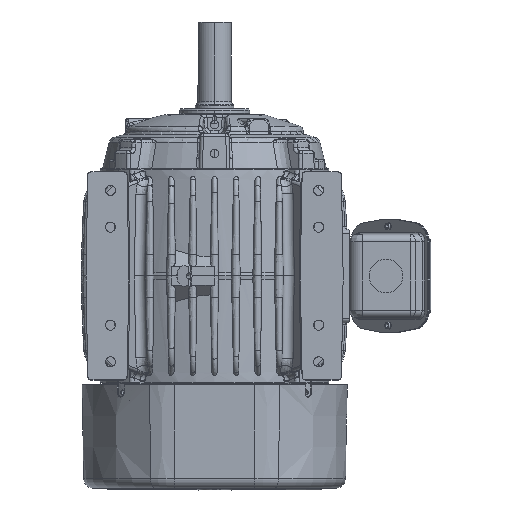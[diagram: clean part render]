
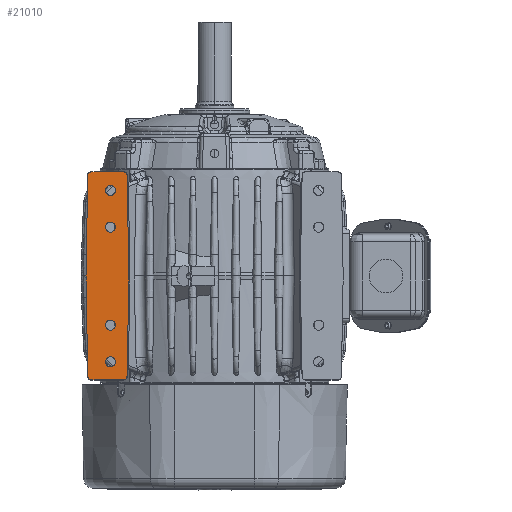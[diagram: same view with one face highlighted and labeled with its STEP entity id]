
A CAD part, front view. The second image highlights one B-rep face of the part: STEP entity #21010.
In plain terms, the highlighted planar face has unit normal (0, -1, 0).
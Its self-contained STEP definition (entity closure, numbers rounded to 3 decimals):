
#1=DIRECTION('',(0.017,0.,1.));
#2=VECTOR('',#1,2.39);
#3=CARTESIAN_POINT('',(3.5,-5.233,0.));
#4=LINE('',#3,#2);
#13=CARTESIAN_POINT('',(3.542,-5.233,2.389));
#14=CARTESIAN_POINT('',(3.545,-5.233,2.584));
#15=CARTESIAN_POINT('',(3.552,-5.233,2.973));
#16=CARTESIAN_POINT('',(3.563,-5.232,3.551));
#17=CARTESIAN_POINT('',(3.571,-5.233,3.933));
#18=CARTESIAN_POINT('',(3.576,-5.233,4.123));
#20=DIRECTION('',(1.,0.,0.));
#21=VECTOR('',#20,1.346);
#22=CARTESIAN_POINT('',(3.702,-5.233,4.246));
#23=LINE('',#22,#21);
#24=CARTESIAN_POINT('',(5.208,-5.233,2.389));
#25=CARTESIAN_POINT('',(5.198,-5.233,2.967));
#26=CARTESIAN_POINT('',(5.187,-5.233,3.545));
#27=CARTESIAN_POINT('',(5.174,-5.233,4.123));
#29=CARTESIAN_POINT('',(5.208,-5.233,-2.389));
#30=CARTESIAN_POINT('',(5.198,-5.233,-2.967));
#31=CARTESIAN_POINT('',(5.187,-5.233,-3.545));
#32=CARTESIAN_POINT('',(5.174,-5.233,-4.123));
#34=DIRECTION('',(-1.,0.,0.));
#35=VECTOR('',#34,1.346);
#36=CARTESIAN_POINT('',(5.048,-5.233,-4.246));
#37=LINE('',#36,#35);
#38=CARTESIAN_POINT('',(3.542,-5.233,-2.389));
#39=CARTESIAN_POINT('',(3.545,-5.233,-2.584));
#40=CARTESIAN_POINT('',(3.552,-5.233,-2.973));
#41=CARTESIAN_POINT('',(3.563,-5.232,-3.551));
#42=CARTESIAN_POINT('',(3.571,-5.233,-3.933));
#43=CARTESIAN_POINT('',(3.576,-5.233,-4.123));
#87=CARTESIAN_POINT('',(4.25,-5.233,3.505));
#88=DIRECTION('',(0.,-1.,0.));
#89=DIRECTION('',(-1.,0.,0.));
#90=AXIS2_PLACEMENT_3D('',#87,#88,#89);
#92=CARTESIAN_POINT('',(4.25,-5.233,3.505));
#93=DIRECTION('',(0.,-1.,0.));
#94=DIRECTION('',(1.,0.,0.));
#95=AXIS2_PLACEMENT_3D('',#92,#93,#94);
#107=CARTESIAN_POINT('',(4.25,-5.233,-3.495));
#108=DIRECTION('',(0.,-1.,0.));
#109=DIRECTION('',(-1.,0.,0.));
#110=AXIS2_PLACEMENT_3D('',#107,#108,#109);
#112=CARTESIAN_POINT('',(4.25,-5.233,-3.495));
#113=DIRECTION('',(0.,-1.,0.));
#114=DIRECTION('',(1.,0.,0.));
#115=AXIS2_PLACEMENT_3D('',#112,#113,#114);
#127=CARTESIAN_POINT('',(4.25,-5.233,2.005));
#128=DIRECTION('',(0.,-1.,0.));
#129=DIRECTION('',(-1.,0.,0.));
#130=AXIS2_PLACEMENT_3D('',#127,#128,#129);
#132=CARTESIAN_POINT('',(4.25,-5.233,2.005));
#133=DIRECTION('',(0.,-1.,0.));
#134=DIRECTION('',(1.,0.,0.));
#135=AXIS2_PLACEMENT_3D('',#132,#133,#134);
#147=CARTESIAN_POINT('',(4.25,-5.233,-1.995));
#148=DIRECTION('',(0.,-1.,0.));
#149=DIRECTION('',(-1.,0.,0.));
#150=AXIS2_PLACEMENT_3D('',#147,#148,#149);
#152=CARTESIAN_POINT('',(4.25,-5.233,-1.995));
#153=DIRECTION('',(0.,-1.,0.));
#154=DIRECTION('',(1.,0.,0.));
#155=AXIS2_PLACEMENT_3D('',#152,#153,#154);
#167=CARTESIAN_POINT('',(3.702,-5.233,4.12));
#168=DIRECTION('',(0.,1.,0.));
#169=DIRECTION('',(-1.,0.,0.021));
#170=AXIS2_PLACEMENT_3D('',#167,#168,#169);
#268=DIRECTION('',(0.017,0.,-1.));
#269=VECTOR('',#268,2.39);
#270=CARTESIAN_POINT('',(3.5,-5.233,0.));
#271=LINE('',#270,#269);
#286=CARTESIAN_POINT('',(3.702,-5.233,-4.12));
#287=DIRECTION('',(0.,1.,0.));
#288=DIRECTION('',(0.,0.,-1.));
#289=AXIS2_PLACEMENT_3D('',#286,#287,#288);
#311=CARTESIAN_POINT('',(5.048,-5.233,-4.12));
#312=DIRECTION('',(0.,1.,0.));
#313=DIRECTION('',(1.,0.,-0.022));
#314=AXIS2_PLACEMENT_3D('',#311,#312,#313);
#330=DIRECTION('',(0.017,0.,1.));
#331=VECTOR('',#330,2.39);
#332=CARTESIAN_POINT('',(5.208,-5.233,-2.389));
#333=LINE('',#332,#331);
#338=DIRECTION('',(0.017,0.,-1.));
#339=VECTOR('',#338,2.39);
#340=CARTESIAN_POINT('',(5.208,-5.233,2.389));
#341=LINE('',#340,#339);
#359=CARTESIAN_POINT('',(5.048,-5.233,4.12));
#360=DIRECTION('',(0.,1.,0.));
#361=DIRECTION('',(-0.001,0.,1.));
#362=AXIS2_PLACEMENT_3D('',#359,#360,#361);
#19473=CARTESIAN_POINT('',(3.5,-5.233,0.));
#19474=CARTESIAN_POINT('',(3.542,-5.233,2.389));
#19475=VERTEX_POINT('',#19473);
#19476=VERTEX_POINT('',#19474);
#19477=CARTESIAN_POINT('',(5.208,-5.233,2.389));
#19478=CARTESIAN_POINT('',(5.25,-5.233,0.));
#19479=VERTEX_POINT('',#19477);
#19480=VERTEX_POINT('',#19478);
#19489=CARTESIAN_POINT('',(3.542,-5.233,-2.389));
#19490=VERTEX_POINT('',#19489);
#19491=CARTESIAN_POINT('',(5.208,-5.233,-2.389));
#19492=VERTEX_POINT('',#19491);
#19507=CARTESIAN_POINT('',(4.045,-5.233,3.505));
#19508=CARTESIAN_POINT('',(4.455,-5.233,3.505));
#19509=VERTEX_POINT('',#19507);
#19510=VERTEX_POINT('',#19508);
#20303=VERTEX_POINT('',#18);
#20304=CARTESIAN_POINT('',(3.702,-5.233,4.246));
#20305=CARTESIAN_POINT('',(5.048,-5.233,
4.246));
#20306=VERTEX_POINT('',#20304);
#20307=VERTEX_POINT('',#20305);
#20308=VERTEX_POINT('',#27);
#20315=VERTEX_POINT('',#43);
#20316=CARTESIAN_POINT('',(5.048,-5.233,
-4.246));
#20317=CARTESIAN_POINT('',(3.702,-5.233,-4.246));
#20318=VERTEX_POINT('',#20316);
#20319=VERTEX_POINT('',#20317);
#20320=VERTEX_POINT('',#32);
#20902=CARTESIAN_POINT('',(4.045,-5.233,-3.495));
#20903=CARTESIAN_POINT('',(4.455,-5.233,-3.495));
#20904=VERTEX_POINT('',#20902);
#20905=VERTEX_POINT('',#20903);
#20914=CARTESIAN_POINT('',(4.045,-5.233,2.005));
#20915=CARTESIAN_POINT('',(4.455,-5.233,2.005));
#20916=VERTEX_POINT('',#20914);
#20917=VERTEX_POINT('',#20915);
#20926=CARTESIAN_POINT('',(4.045,-5.233,-1.995));
#20927=CARTESIAN_POINT('',(4.455,-5.233,-1.995));
#20928=VERTEX_POINT('',#20926);
#20929=VERTEX_POINT('',#20927);
#20952=CARTESIAN_POINT('',(9.5,-5.233,5.362));
#20953=DIRECTION('',(0.,1.,0.));
#20954=DIRECTION('',(-1.,0.,0.));
#20955=AXIS2_PLACEMENT_3D('',#20952,#20953,#20954);
#20956=PLANE('',#20955);
#20957=ORIENTED_EDGE('',*,*,#20935,.T.);
#20959=ORIENTED_EDGE('',*,*,#20958,.T.);
#20961=ORIENTED_EDGE('',*,*,#20960,.T.);
#20963=ORIENTED_EDGE('',*,*,#20962,.T.);
#20965=ORIENTED_EDGE('',*,*,#20964,.T.);
#20967=ORIENTED_EDGE('',*,*,#20966,.F.);
#20969=ORIENTED_EDGE('',*,*,#20968,.T.);
#20971=ORIENTED_EDGE('',*,*,#20970,.F.);
#20973=ORIENTED_EDGE('',*,*,#20972,.T.);
#20975=ORIENTED_EDGE('',*,*,#20974,.T.);
#20977=ORIENTED_EDGE('',*,*,#20976,.T.);
#20979=ORIENTED_EDGE('',*,*,#20978,.T.);
#20981=ORIENTED_EDGE('',*,*,#20980,.F.);
#20983=ORIENTED_EDGE('',*,*,#20982,.F.);
#20984=EDGE_LOOP('',(#20957,#20959,#20961,#20963,#20965,#20967,#20969,#20971,
#20973,#20975,#20977,#20979,#20981,#20983));
#20985=FACE_OUTER_BOUND('',#20984,.F.);
#20987=ORIENTED_EDGE('',*,*,#20986,.T.);
#20989=ORIENTED_EDGE('',*,*,#20988,.T.);
#20990=EDGE_LOOP('',(#20987,#20989));
#20991=FACE_BOUND('',#20990,.F.);
#20993=ORIENTED_EDGE('',*,*,#20992,.T.);
#20995=ORIENTED_EDGE('',*,*,#20994,.T.);
#20996=EDGE_LOOP('',(#20993,#20995));
#20997=FACE_BOUND('',#20996,.F.);
#20999=ORIENTED_EDGE('',*,*,#20998,.T.);
#21001=ORIENTED_EDGE('',*,*,#21000,.T.);
#21002=EDGE_LOOP('',(#20999,#21001));
#21003=FACE_BOUND('',#21002,.F.);
#21005=ORIENTED_EDGE('',*,*,#21004,.T.);
#21007=ORIENTED_EDGE('',*,*,#21006,.T.);
#21008=EDGE_LOOP('',(#21005,#21007));
#21009=FACE_BOUND('',#21008,.F.);
#21010=ADVANCED_FACE('',(#20985,#20991,#20997,#21003,#21009),#20956,.F.);
#19=B_SPLINE_CURVE_WITH_KNOTS('',3,(#13,#14,#15,#16,#17,#18),.UNSPECIFIED.,.F.,
.F.,(4,1,1,4),(0.,0.333,0.667,1.),.UNSPECIFIED.);
#28=B_SPLINE_CURVE_WITH_KNOTS('',3,(#24,#25,#26,#27),.UNSPECIFIED.,.F.,.F.,(4,
4),(0.,1.),.UNSPECIFIED.);
#33=B_SPLINE_CURVE_WITH_KNOTS('',3,(#29,#30,#31,#32),.UNSPECIFIED.,.F.,.F.,(4,
4),(0.,1.),.UNSPECIFIED.);
#44=B_SPLINE_CURVE_WITH_KNOTS('',3,(#38,#39,#40,#41,#42,#43),.UNSPECIFIED.,.F.,
.F.,(4,1,1,4),(0.,0.333,0.667,1.),.UNSPECIFIED.);
#91=CIRCLE('',#90,0.205);
#96=CIRCLE('',#95,0.205);
#111=CIRCLE('',#110,0.205);
#116=CIRCLE('',#115,0.205);
#131=CIRCLE('',#130,0.205);
#136=CIRCLE('',#135,0.205);
#151=CIRCLE('',#150,0.205);
#156=CIRCLE('',#155,0.205);
#171=CIRCLE('',#170,0.126);
#290=CIRCLE('',#289,0.126);
#315=CIRCLE('',#314,0.126);
#363=CIRCLE('',#362,0.126);
#20935=EDGE_CURVE('',#19475,#19476,#4,.T.);
#20958=EDGE_CURVE('',#19476,#20303,#19,.T.);
#20960=EDGE_CURVE('',#20303,#20306,#171,.T.);
#20962=EDGE_CURVE('',#20306,#20307,#23,.T.);
#20964=EDGE_CURVE('',#20307,#20308,#363,.T.);
#20966=EDGE_CURVE('',#19479,#20308,#28,.T.);
#20968=EDGE_CURVE('',#19479,#19480,#341,.T.);
#20970=EDGE_CURVE('',#19492,#19480,#333,.T.);
#20972=EDGE_CURVE('',#19492,#20320,#33,.T.);
#20974=EDGE_CURVE('',#20320,#20318,#315,.T.);
#20976=EDGE_CURVE('',#20318,#20319,#37,.T.);
#20978=EDGE_CURVE('',#20319,#20315,#290,.T.);
#20980=EDGE_CURVE('',#19490,#20315,#44,.T.);
#20982=EDGE_CURVE('',#19475,#19490,#271,.T.);
#20986=EDGE_CURVE('',#19509,#19510,#91,.T.);
#20988=EDGE_CURVE('',#19510,#19509,#96,.T.);
#20992=EDGE_CURVE('',#20904,#20905,#111,.T.);
#20994=EDGE_CURVE('',#20905,#20904,#116,.T.);
#20998=EDGE_CURVE('',#20916,#20917,#131,.T.);
#21000=EDGE_CURVE('',#20917,#20916,#136,.T.);
#21004=EDGE_CURVE('',#20928,#20929,#151,.T.);
#21006=EDGE_CURVE('',#20929,#20928,#156,.T.);
